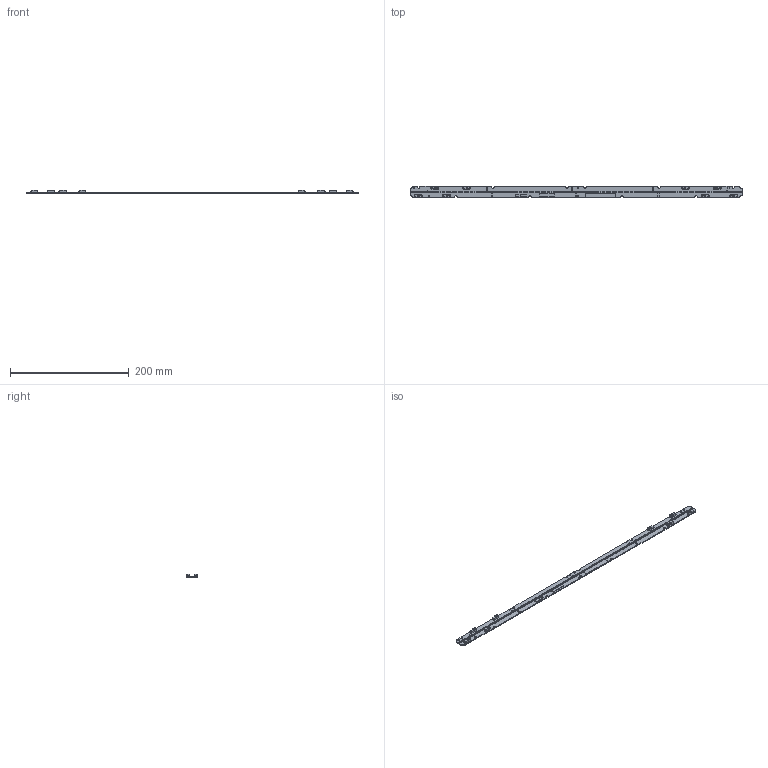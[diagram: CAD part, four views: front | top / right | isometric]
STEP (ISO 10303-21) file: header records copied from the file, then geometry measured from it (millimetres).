
FILE_DESCRIPTION((''),'2;1');
FILE_NAME('QC112DT22_06072021_10-27-12_ASM','2021-06-07T',('SYSTEM'),(''),'PRO/ENGINEER BY PARAMETRIC TECHNOLOGY CORPORATION, 2009360','PRO/ENGINEER BY PARAMETRIC TECHNOLOGY CORPORATION, 2009360','');
FILE_SCHEMA(('AUTOMOTIVE_DESIGN_CC2 { 1 2 10303 214 -1 1 5 2 }'));
Length unit declared in the file: inch
Products named in the file (11): QC112DT22_06072021_10-27-12; LM28XB; R2010; TC_R0_5MM; ARKALUMEN_LOGO_25MM; LABEL_BRACKET; UL; ROHS; FIDUCIAL_R0_5MM; WAGO-2060-1; QC112DT22_06072021_10-27-12_ASM
Assembly tree (140 placements, depth 2):
  QC112DT22_06072021_10-27-12_ASM
    QC112DT22_06072021_10-27-12
    LM28XB  x112
    R2010  x6
    TC_R0_5MM  x4
    ARKALUMEN_LOGO_25MM
    LABEL_BRACKET
    UL
    ROHS
    FIDUCIAL_R0_5MM  x5
    WAGO-2060-1  x8
Bounding box: 559.2 x 20 x 6.34 mm (x, y, z)
Volume: 20018.3 mm3; surface area: 31269.9 mm2
Topology: 140 solids, 146 shells, 7356 faces, 21738 edges, 14788 vertices
Faces by surface type: plane 5056, cylinder 2284, sphere 16
Entity records: 16765 total; most frequent: CARTESIAN_POINT 2509, DIRECTION 2310, ORIENTED_EDGE 2230, EDGE_CURVE 1119, VECTOR 990, LINE 990, VERTEX_POINT 750, PRESENTATION_STYLE_ASSIGNMENT 744
